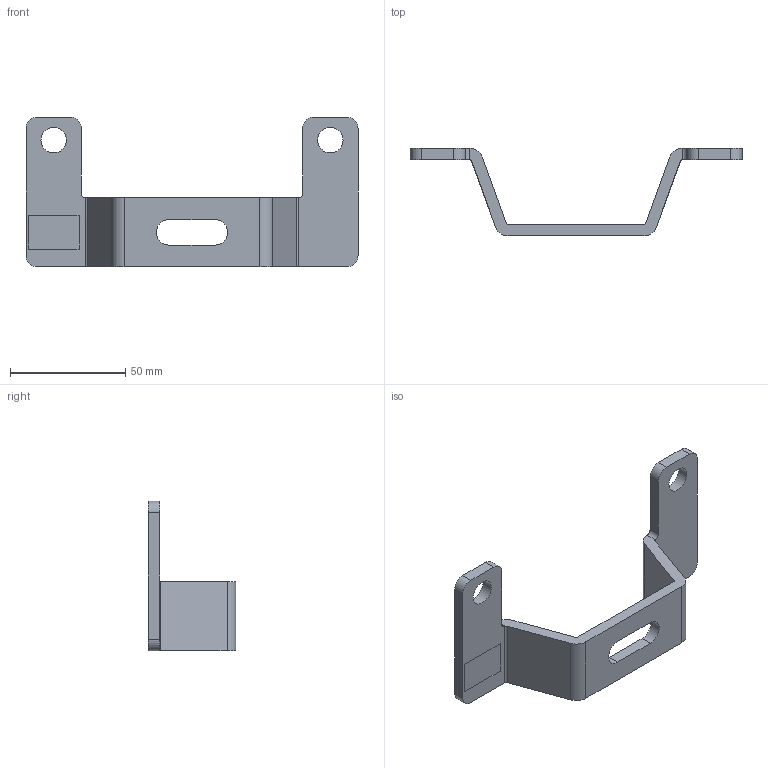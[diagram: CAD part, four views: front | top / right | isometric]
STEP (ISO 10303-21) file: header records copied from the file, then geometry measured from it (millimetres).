
FILE_DESCRIPTION(/* description */ ('Wandwinkel groß'),/* implementation_level */ '2;1');
FILE_NAME(/* name */ 'D:\Public\STP\010330102_TP.stp',/* time_stamp */ '2020-05-14T08:41:26+02:00',/* author */ ('M.Barta'),/* organization */ (''),/* preprocessor_version */ 'ST-DEVELOPER v17.2',/* originating_system */ 'Autodesk Inventor 2019',/* authorisation */ '');
FILE_SCHEMA (('AUTOMOTIVE_DESIGN { 1 0 10303 214 3 1 1 }'));
Length unit declared in the file: millimetre
Products named in the file (1): 010330102
Bounding box: 144 x 38 x 65 mm (x, y, z)
Volume: 33897.2 mm3; surface area: 17084.8 mm2
Topology: 1 solids, 1 shells, 53 faces, 136 edges, 86 vertices
Faces by surface type: plane 33, cylinder 20
Full cylindrical faces by diameter (mm): 11 x2
Entity records: 1657 total; most frequent: CARTESIAN_POINT 288, DIRECTION 282, ORIENTED_EDGE 272, EDGE_CURVE 136, AXIS2_PLACEMENT_3D 96, LINE 90, VECTOR 90, VERTEX_POINT 86
